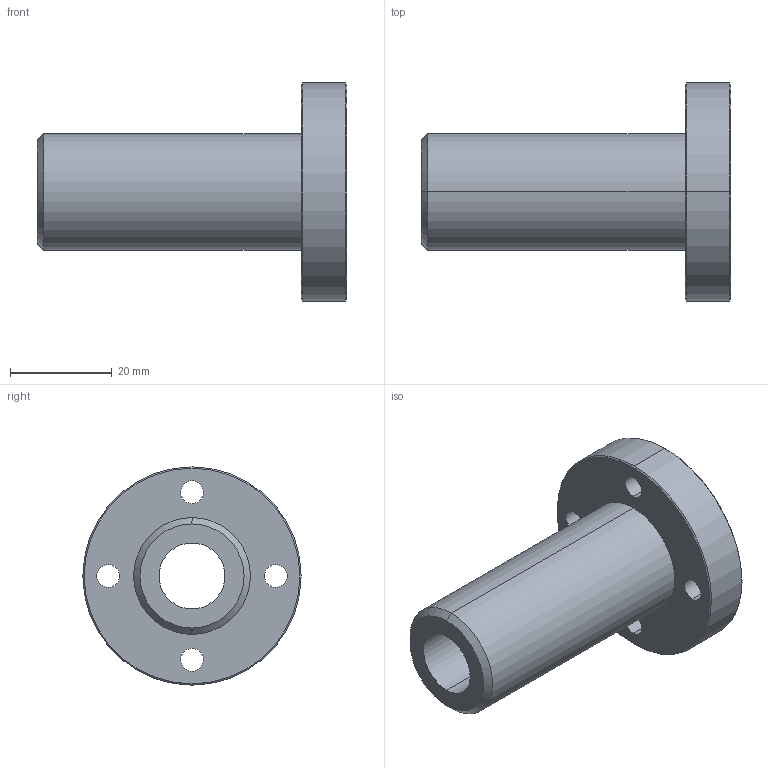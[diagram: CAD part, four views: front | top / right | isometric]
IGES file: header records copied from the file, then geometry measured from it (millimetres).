
Start section: 3D InterOp IGES (Version 21 0 1), Spatial Corp. Copyright (c) 1999-2007.
Global section: file name: DFPJR13.igs; native system: Spatial Corp.; preprocessor: 3D InterOp GENERIC/IGES 3.0; author: Noname; organization: Noname; date: 20220324.143916; units: millimetre
Bounding box: 61 x 43 x 43 mm (x, y, z)
Surface area: 10544.3 mm2 (no closed solid volume)
Topology: 0 solids, 0 shells, 35 faces, 156 edges, 156 vertices
Faces by surface type: revolution 28, extrusion 7
